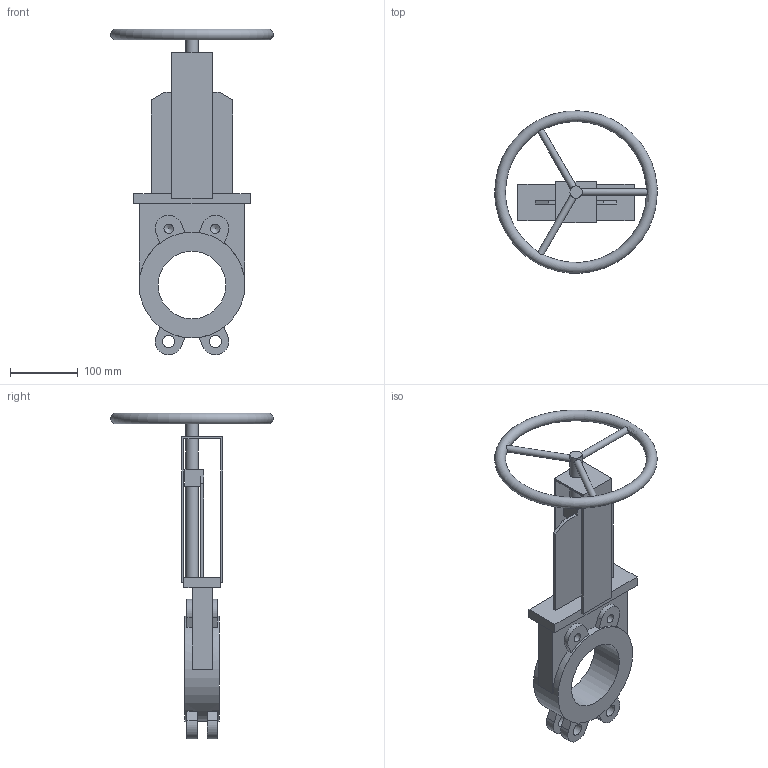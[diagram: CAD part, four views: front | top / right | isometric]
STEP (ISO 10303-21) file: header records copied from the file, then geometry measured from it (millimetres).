
FILE_DESCRIPTION(('STEP AP203'), '1');
FILE_NAME('Çàäâèæêà øèáåðíàÿ ìåæôëàíöåâàÿ K21GV DN100', '', ('UNSPECIFIED'), ('UNSPECIFIED'), 'ASCON STEP Converter 1.6', 'ASCON Math Kernel', '');
FILE_SCHEMA(('CONFIG_CONTROL_DESIGN'));
Length unit declared in the file: millimetre
Bounding box: 239.98 x 239.71 x 481.13 mm (x, y, z)
Volume: 1481650.8 mm3; surface area: 274685.8 mm2
Topology: 1 solids, 1 shells, 93 faces, 252 edges, 165 vertices
Faces by surface type: plane 64, cylinder 24, cone 4, torus 1
Full cylindrical faces by diameter (mm): 10 x3, 13.835 x4, 18 x7, 100 x1, 156 x1
Entity records: 4745 total; most frequent: CARTESIAN_POINT 1660, DIRECTION 466, ORIENTED_EDGE 448, EDGE_CURVE 224, VERTEX_POINT 160, AXIS2_PLACEMENT_3D 156, LINE 154, VECTOR 154
